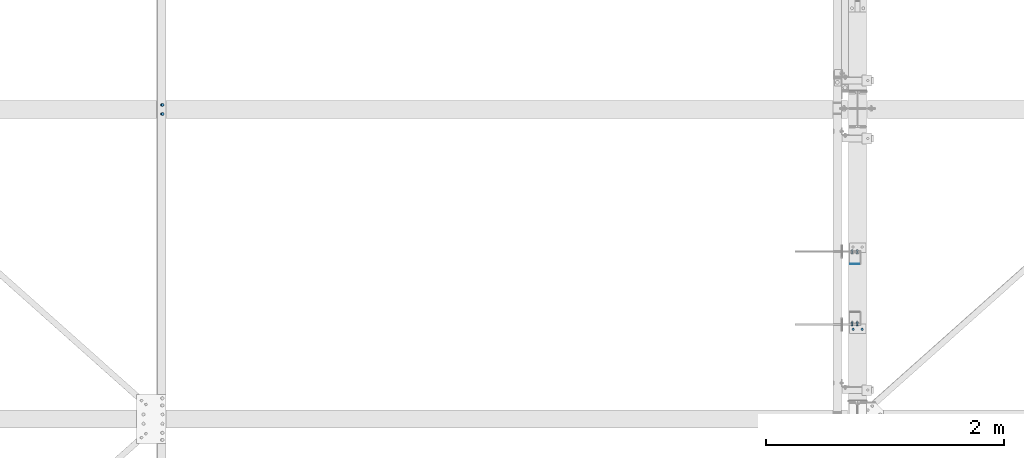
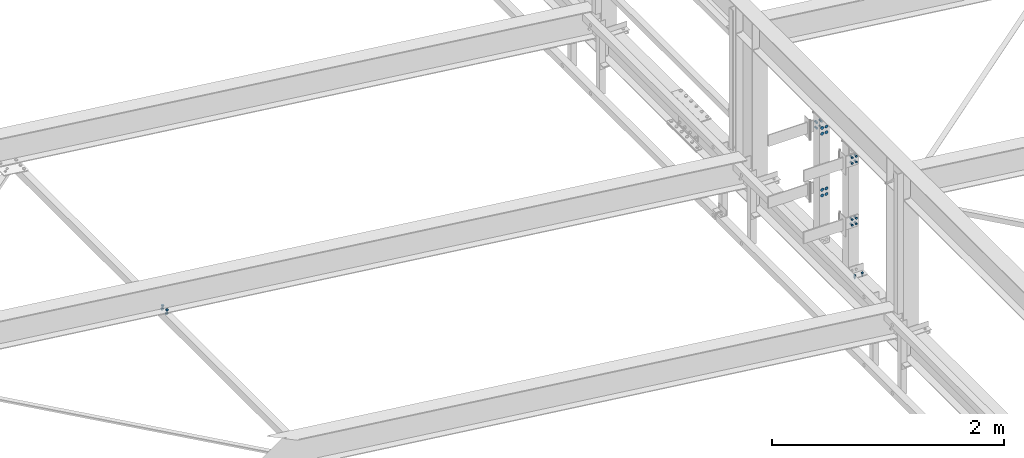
# One storey, part 146 of 3134: 7 mechanical fasteners, 4 elements without a shape of their own.
"""IFC2X3 building model written with IfcOpenShell, lengths in millimetres."""

from ifc_helpers import new_model, si_unit, frame, origin_with_axes, place, context, subcontext, project, spatial, faceted_brep, source, transform, mapped, material, type_object, element, aggregate, save


model = new_model("IFC2X3")

# Units and contexts
model_context = context("Model", 3, precision=1e-05, world=origin_with_axes())
body_context = subcontext(model_context, "Body", "Model", "MODEL_VIEW")
ifc_project = project(units=[si_unit("LENGTHUNIT", "METRE", prefix="MILLI"), si_unit("AREAUNIT", "SQUARE_METRE"), si_unit("VOLUMEUNIT", "CUBIC_METRE"), si_unit("MASSUNIT", "GRAM", prefix="KILO"), si_unit("TIMEUNIT", "SECOND"), si_unit("PLANEANGLEUNIT", "RADIAN"), si_unit("SOLIDANGLEUNIT", "STERADIAN"), si_unit("THERMODYNAMICTEMPERATUREUNIT", "DEGREE_CELSIUS"), si_unit("LUMINOUSINTENSITYUNIT", "LUMEN")], contexts=[model_context])

# Site, building, storey
site_placement = place(None, origin_with_axes())
site = spatial("IfcSite", under=ifc_project, at=site_placement, CompositionType="ELEMENT")
building_placement = place(site_placement, origin_with_axes())
building = spatial("IfcBuilding", under=site, at=building_placement, Name="Undefined", CompositionType="ELEMENT")
storey_placement = place(building_placement, origin_with_axes())
storey = spatial("IfcBuildingStorey", under=building, at=storey_placement, Name="Undefined", CompositionType="ELEMENT", Elevation=0.0)

# Assembly, mechanical fasteners
assembly_1_placement = place(storey_placement, origin_with_axes())
assembly_1 = element("IfcElementAssembly", 1, at=assembly_1_placement, inside=storey, AssemblyPlace="NOTDEFINED", PredefinedType="RIGID_FRAME")
ifc_material = material(Name="8.8")
mechanical_fastener_type = type_object("IfcMechanicalFastenerType", Name="Bolt assembly")
shared_shape_1 = source(origin_with_axes(), body_context, "Body", "Brep", [
    faceted_brep([(16.5, 0.0, 0.0), (14.289419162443, 0.0, 8.25000000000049), (8.24999999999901, 0.0, 14.2894191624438), (-1.70995436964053e-12, 0.0, 16.5), (-8.25000000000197, 0.0, 14.2894191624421), (-14.2894191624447, 0.0, 8.24999999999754), (-16.5, 0.0, -3.41990873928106e-12), (-14.2894191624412, 0.0, -8.25000000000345), (-8.24999999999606, 0.0, -14.2894191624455), (5.11154442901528e-12, 0.0, -16.5), (8.25000000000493, 0.0, -14.2894191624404), (14.2894191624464, 0.0, -8.24999999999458), (14.2894191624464, 4.1, -8.24999999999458), (8.25000000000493, 4.1, -14.2894191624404), (5.11154442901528e-12, 4.1, -16.5), (-8.24999999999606, 4.1, -14.2894191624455), (-14.2894191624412, 4.1, -8.25000000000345), (-16.5, 4.1, -3.41990873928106e-12), (-14.2894191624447, 4.1, 8.24999999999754), (-8.25000000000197, 4.1, 14.2894191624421), (-1.70995436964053e-12, 4.1, 16.5), (8.24999999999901, 4.1, 14.2894191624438), (14.289419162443, 4.1, 8.25000000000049), (16.5, 4.1, 0.0)], [[[0, 1, 2, 3, 4, 5, 6, 7, 8, 9, 10, 11]], [[12, 13, 14, 15, 16, 17, 18, 19, 20, 21, 22, 23]], [[0, 23, 22, 1]], [[1, 22, 21, 2]], [[2, 21, 20, 3]], [[3, 20, 19, 4]], [[4, 19, 18, 5]], [[5, 18, 17, 6]], [[6, 17, 16, 7]], [[7, 16, 15, 8]], [[8, 15, 14, 9]], [[9, 14, 13, 10]], [[10, 13, 12, 11]], [[11, 12, 23, 0]]]),
])
mechanical_fastener_1_placement = place(assembly_1_placement, frame((44175.0, 25950.0, 5470.0), z_axis=(1.0, 0.0, 0.0), x_axis=(0.0, 0.0, -1.0)))
mechanical_fastener_1 = element("IfcMechanicalFastener", 2, at=mechanical_fastener_1_placement, type_object=mechanical_fastener_type, material=ifc_material, Name="Bolt assembly", NominalDiameter=30.0, NominalLength=4.0, context=body_context, shape_type="MappedRepresentation", body=[
    mapped(shared_shape_1, transform((0.0, 0.0, -21.0))),
    mapped(shared_shape_1, transform((60.0, 0.0, -21.0))),
    mapped(shared_shape_1, transform((0.0, 0.0, 21.0))),
    mapped(shared_shape_1, transform((60.0, 0.0, 21.0))),
])
mechanical_fastener_2_placement = place(assembly_1_placement, frame((44175.0, 25950.0, 4820.0), z_axis=(1.0, 0.0, 0.0), x_axis=(0.0, 0.0, -1.0)))
mechanical_fastener_2 = element("IfcMechanicalFastener", 3, at=mechanical_fastener_2_placement, type_object=mechanical_fastener_type, material=ifc_material, Name="Bolt assembly", NominalDiameter=30.0, NominalLength=4.0, context=body_context, shape_type="MappedRepresentation", body=[
    mapped(shared_shape_1, transform((0.0, 0.0, -21.0))),
    mapped(shared_shape_1, transform((60.0, 0.0, -21.0))),
    mapped(shared_shape_1, transform((0.0, 0.0, 21.0))),
    mapped(shared_shape_1, transform((60.0, 0.0, 21.0))),
])

assembly_2_placement = place(storey_placement, origin_with_axes())
assembly_2 = element("IfcElementAssembly", 4, at=assembly_2_placement, inside=storey, AssemblyPlace="NOTDEFINED", PredefinedType="RIGID_FRAME")
shared_shape_2 = source(origin_with_axes(), body_context, "Body", "Brep", [
    faceted_brep([(10.9696551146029, -20.0, 0.0), (5.48482755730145, -20.0, 9.5), (-5.48482755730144, -20.0, 9.5), (-10.9696551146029, -20.0, 1.34339530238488e-15), (-5.48482755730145, -20.0, -9.5), (5.48482755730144, -20.0, -9.50000000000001), (5.48482755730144, -12.0, -9.50000000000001), (-5.48482755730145, -12.0, -9.5), (-10.9696551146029, -12.0, 1.34339530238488e-15), (-5.48482755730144, -12.0, 9.5), (5.48482755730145, -12.0, 9.5), (10.9696551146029, -12.0, 0.0), (6.0, -12.0, 0.0), (5.19615242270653, -12.0, 3.00000000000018), (2.99999999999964, -12.0, 5.19615242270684), (-6.21801588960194e-13, -12.0, 6.0), (-3.00000000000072, -12.0, 5.19615242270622), (-5.19615242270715, -12.0, 2.9999999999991), (-6.0, -12.0, -1.24360317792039e-12), (-5.19615242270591, -12.0, -3.00000000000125), (-2.99999999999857, -12.0, -5.19615242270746), (1.85874342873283e-12, -12.0, -6.0), (3.00000000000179, -12.0, -5.1961524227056), (5.19615242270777, -12.0, -2.99999999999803), (5.19615242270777, 18.0, -2.99999999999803), (3.00000000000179, 18.0, -5.1961524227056), (1.85874342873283e-12, 18.0, -6.0), (-2.99999999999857, 18.0, -5.19615242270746), (-5.19615242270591, 18.0, -3.00000000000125), (-6.0, 18.0, -1.24360317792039e-12), (-5.19615242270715, 18.0, 2.9999999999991), (-3.00000000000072, 18.0, 5.19615242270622), (-6.21801588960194e-13, 18.0, 6.0), (2.99999999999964, 18.0, 5.19615242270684), (5.19615242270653, 18.0, 3.00000000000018), (6.0, 18.0, 0.0), (10.9696551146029, 4.00000000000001, 0.0), (5.48482755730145, 4.00000000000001, 9.5), (-5.48482755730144, 4.00000000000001, 9.5), (-10.9696551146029, 4.00000000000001, 1.34339530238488e-15), (-5.48482755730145, 4.00000000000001, -9.5), (5.48482755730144, 4.00000000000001, -9.50000000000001), (5.48482755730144, 14.0, -9.50000000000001), (-5.48482755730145, 14.0, -9.5), (-10.9696551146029, 14.0, 1.34339530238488e-15), (-5.48482755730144, 14.0, 9.5), (5.48482755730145, 14.0, 9.5), (10.9696551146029, 14.0, 0.0)], [[[0, 1, 2, 3, 4, 5]], [[6, 7, 8, 9, 10, 11]], [[0, 11, 10, 1]], [[1, 10, 9, 2]], [[2, 9, 8, 3]], [[3, 8, 7, 4]], [[4, 7, 6, 5]], [[5, 6, 11, 0]], [[12, 13, 14, 15, 16, 17, 18, 19, 20, 21, 22, 23]], [[24, 25, 26, 27, 28, 29, 30, 31, 32, 33, 34, 35]], [[12, 35, 34, 13]], [[13, 34, 33, 14]], [[14, 33, 32, 15]], [[15, 32, 31, 16]], [[16, 31, 30, 17]], [[17, 30, 29, 18]], [[18, 29, 28, 19]], [[19, 28, 27, 20]], [[20, 27, 26, 21]], [[21, 26, 25, 22]], [[22, 25, 24, 23]], [[23, 24, 35, 12]], [[36, 37, 38, 39, 40, 41]], [[42, 43, 44, 45, 46, 47]], [[36, 47, 46, 37]], [[37, 46, 45, 38]], [[38, 45, 44, 39]], [[39, 44, 43, 40]], [[40, 43, 42, 41]], [[41, 42, 47, 36]]]),
    faceted_brep([(7.0, -11.9, 0.0), (6.06217782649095, -11.9, 3.50000000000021), (3.49999999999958, -11.9, 6.06217782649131), (-7.25435187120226e-13, -11.9, 7.0), (-3.50000000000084, -11.9, 6.06217782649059), (-6.06217782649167, -11.9, 3.49999999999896), (-7.0, -11.9, -1.45087037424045e-12), (-6.06217782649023, -11.9, -3.50000000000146), (-3.49999999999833, -11.9, -6.06217782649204), (2.1685340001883e-12, -11.9, -7.0), (3.50000000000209, -11.9, -6.06217782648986), (6.0621778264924, -11.9, -3.4999999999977), (6.0621778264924, 0.0999999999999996, -3.4999999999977), (3.50000000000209, 0.0999999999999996, -6.06217782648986), (2.1685340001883e-12, 0.0999999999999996, -7.0), (-3.49999999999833, 0.0999999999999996, -6.06217782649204), (-6.06217782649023, 0.0999999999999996, -3.50000000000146), (-7.0, 0.0999999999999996, -1.45087037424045e-12), (-6.06217782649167, 0.0999999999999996, 3.49999999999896), (-3.50000000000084, 0.0999999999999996, 6.06217782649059), (-7.25435187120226e-13, 0.0999999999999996, 7.0), (3.49999999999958, 0.0999999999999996, 6.06217782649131), (6.06217782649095, 0.0999999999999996, 3.50000000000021), (7.0, 0.0999999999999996, 0.0), (7.0, -0.1, 0.0), (6.06217782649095, -0.1, 3.50000000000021), (3.49999999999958, -0.1, 6.06217782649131), (-7.25435187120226e-13, -0.1, 7.0), (-3.50000000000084, -0.1, 6.06217782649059), (-6.06217782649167, -0.1, 3.49999999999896), (-7.0, -0.1, -1.45087037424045e-12), (-6.06217782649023, -0.1, -3.50000000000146), (-3.49999999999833, -0.1, -6.06217782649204), (2.1685340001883e-12, -0.1, -7.0), (3.50000000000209, -0.1, -6.06217782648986), (6.0621778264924, -0.1, -3.4999999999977), (6.0621778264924, 4.00000000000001, -3.4999999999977), (3.50000000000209, 4.00000000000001, -6.06217782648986), (2.1685340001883e-12, 4.00000000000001, -7.0), (-3.49999999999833, 4.00000000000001, -6.06217782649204), (-6.06217782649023, 4.00000000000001, -3.50000000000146), (-7.0, 4.00000000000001, -1.45087037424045e-12), (-6.06217782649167, 4.00000000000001, 3.49999999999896), (-3.50000000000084, 4.00000000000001, 6.06217782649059), (-7.25435187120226e-13, 4.00000000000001, 7.0), (3.49999999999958, 4.00000000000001, 6.06217782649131), (6.06217782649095, 4.00000000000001, 3.50000000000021), (7.0, 4.00000000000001, 0.0)], [[[0, 1, 2, 3, 4, 5, 6, 7, 8, 9, 10, 11]], [[12, 13, 14, 15, 16, 17, 18, 19, 20, 21, 22, 23]], [[0, 23, 22, 1]], [[1, 22, 21, 2]], [[2, 21, 20, 3]], [[3, 20, 19, 4]], [[4, 19, 18, 5]], [[5, 18, 17, 6]], [[6, 17, 16, 7]], [[7, 16, 15, 8]], [[8, 15, 14, 9]], [[9, 14, 13, 10]], [[10, 13, 12, 11]], [[11, 12, 23, 0]], [[24, 25, 26, 27, 28, 29, 30, 31, 32, 33, 34, 35]], [[36, 37, 38, 39, 40, 41, 42, 43, 44, 45, 46, 47]], [[24, 47, 46, 25]], [[25, 46, 45, 26]], [[26, 45, 44, 27]], [[27, 44, 43, 28]], [[28, 43, 42, 29]], [[29, 42, 41, 30]], [[30, 41, 40, 31]], [[31, 40, 39, 32]], [[32, 39, 38, 33]], [[33, 38, 37, 34]], [[34, 37, 36, 35]], [[35, 36, 47, 24]]]),
])
mechanical_fastener_3_placement = place(assembly_2_placement, frame((44175.0, 25450.0, 5470.0), z_axis=(1.0, 0.0, 0.0), x_axis=(0.0, 0.0, -1.0)))
mechanical_fastener_3 = element("IfcMechanicalFastener", 5, at=mechanical_fastener_3_placement, type_object=mechanical_fastener_type, material=ifc_material, Name="Bolt assembly", NominalDiameter=12.0, NominalLength=30.0, context=body_context, shape_type="MappedRepresentation", body=[
    mapped(shared_shape_2, transform((0.0, 0.0, -21.0))),
    mapped(shared_shape_2, transform((60.0, 0.0, -21.0))),
    mapped(shared_shape_2, transform((0.0, 0.0, 21.0))),
    mapped(shared_shape_2, transform((60.0, 0.0, 21.0))),
])
mechanical_fastener_4_placement = place(assembly_2_placement, frame((44175.0, 25450.0, 4820.0), z_axis=(1.0, 0.0, 0.0), x_axis=(0.0, 0.0, -1.0)))
mechanical_fastener_4 = element("IfcMechanicalFastener", 6, at=mechanical_fastener_4_placement, type_object=mechanical_fastener_type, material=ifc_material, Name="Bolt assembly", NominalDiameter=12.0, NominalLength=30.0, context=body_context, shape_type="MappedRepresentation", body=[
    mapped(shared_shape_2, transform((0.0, 0.0, -21.0))),
    mapped(shared_shape_2, transform((60.0, 0.0, -21.0))),
    mapped(shared_shape_2, transform((0.0, 0.0, 21.0))),
    mapped(shared_shape_2, transform((60.0, 0.0, 21.0))),
])
aggregate(assembly_2, [mechanical_fastener_3, mechanical_fastener_4])

# Mechanical fastener
shared_shape_3 = source(origin_with_axes(), body_context, "Body", "Brep", [
    faceted_brep([(10.9696551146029, -12.0, 0.0), (5.48482755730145, -12.0, 9.5), (-5.48482755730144, -12.0, 9.5), (-10.9696551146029, -12.0, 1.34339530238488e-15), (-5.48482755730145, -12.0, -9.5), (5.48482755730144, -12.0, -9.50000000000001), (5.48482755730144, -4.0, -9.50000000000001), (-5.48482755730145, -4.0, -9.5), (-10.9696551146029, -4.0, 1.34339530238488e-15), (-5.48482755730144, -4.0, 9.5), (5.48482755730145, -4.0, 9.5), (10.9696551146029, -4.0, 0.0), (6.0, -4.0, 0.0), (5.19615242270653, -4.0, 3.00000000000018), (2.99999999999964, -4.0, 5.19615242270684), (-6.21801588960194e-13, -4.0, 6.0), (-3.00000000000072, -4.0, 5.19615242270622), (-5.19615242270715, -4.0, 2.9999999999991), (-6.0, -4.0, -1.24360317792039e-12), (-5.19615242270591, -4.0, -3.00000000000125), (-2.99999999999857, -4.0, -5.19615242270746), (1.85874342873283e-12, -4.0, -6.0), (3.00000000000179, -4.0, -5.1961524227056), (5.19615242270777, -4.0, -2.99999999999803), (5.19615242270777, 26.0, -2.99999999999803), (3.00000000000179, 26.0, -5.1961524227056), (1.85874342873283e-12, 26.0, -6.0), (-2.99999999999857, 26.0, -5.19615242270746), (-5.19615242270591, 26.0, -3.00000000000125), (-6.0, 26.0, -1.24360317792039e-12), (-5.19615242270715, 26.0, 2.9999999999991), (-3.00000000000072, 26.0, 5.19615242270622), (-6.21801588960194e-13, 26.0, 6.0), (2.99999999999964, 26.0, 5.19615242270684), (5.19615242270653, 26.0, 3.00000000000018), (6.0, 26.0, 0.0), (10.9696551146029, 12.0, 0.0), (5.48482755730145, 12.0, 9.5), (-5.48482755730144, 12.0, 9.5), (-10.9696551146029, 12.0, 1.34339530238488e-15), (-5.48482755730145, 12.0, -9.5), (5.48482755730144, 12.0, -9.50000000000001), (5.48482755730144, 22.0, -9.50000000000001), (-5.48482755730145, 22.0, -9.5), (-10.9696551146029, 22.0, 1.34339530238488e-15), (-5.48482755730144, 22.0, 9.5), (5.48482755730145, 22.0, 9.5), (10.9696551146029, 22.0, 0.0)], [[[0, 1, 2, 3, 4, 5]], [[6, 7, 8, 9, 10, 11]], [[0, 11, 10, 1]], [[1, 10, 9, 2]], [[2, 9, 8, 3]], [[3, 8, 7, 4]], [[4, 7, 6, 5]], [[5, 6, 11, 0]], [[12, 13, 14, 15, 16, 17, 18, 19, 20, 21, 22, 23]], [[24, 25, 26, 27, 28, 29, 30, 31, 32, 33, 34, 35]], [[12, 35, 34, 13]], [[13, 34, 33, 14]], [[14, 33, 32, 15]], [[15, 32, 31, 16]], [[16, 31, 30, 17]], [[17, 30, 29, 18]], [[18, 29, 28, 19]], [[19, 28, 27, 20]], [[20, 27, 26, 21]], [[21, 26, 25, 22]], [[22, 25, 24, 23]], [[23, 24, 35, 12]], [[36, 37, 38, 39, 40, 41]], [[42, 43, 44, 45, 46, 47]], [[36, 47, 46, 37]], [[37, 46, 45, 38]], [[38, 45, 44, 39]], [[39, 44, 43, 40]], [[40, 43, 42, 41]], [[41, 42, 47, 36]]]),
    faceted_brep([(7.0, -0.1, 0.0), (6.06217782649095, -0.1, 3.50000000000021), (3.49999999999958, -0.1, 6.06217782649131), (-7.25435187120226e-13, -0.1, 7.0), (-3.50000000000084, -0.1, 6.06217782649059), (-6.06217782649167, -0.1, 3.49999999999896), (-7.0, -0.1, -1.45087037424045e-12), (-6.06217782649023, -0.1, -3.50000000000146), (-3.49999999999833, -0.1, -6.06217782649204), (2.1685340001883e-12, -0.1, -7.0), (3.50000000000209, -0.1, -6.06217782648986), (6.0621778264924, -0.1, -3.4999999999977), (6.0621778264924, 12.0, -3.4999999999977), (3.50000000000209, 12.0, -6.06217782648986), (2.1685340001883e-12, 12.0, -7.0), (-3.49999999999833, 12.0, -6.06217782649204), (-6.06217782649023, 12.0, -3.50000000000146), (-7.0, 12.0, -1.45087037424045e-12), (-6.06217782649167, 12.0, 3.49999999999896), (-3.50000000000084, 12.0, 6.06217782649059), (-7.25435187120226e-13, 12.0, 7.0), (3.49999999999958, 12.0, 6.06217782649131), (6.06217782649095, 12.0, 3.50000000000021), (7.0, 12.0, 0.0), (7.0, -3.9, 0.0), (6.06217782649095, -3.9, 3.50000000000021), (3.49999999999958, -3.9, 6.06217782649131), (-7.25435187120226e-13, -3.9, 7.0), (-3.50000000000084, -3.9, 6.06217782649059), (-6.06217782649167, -3.9, 3.49999999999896), (-7.0, -3.9, -1.45087037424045e-12), (-6.06217782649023, -3.9, -3.50000000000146), (-3.49999999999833, -3.9, -6.06217782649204), (2.1685340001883e-12, -3.9, -7.0), (3.50000000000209, -3.9, -6.06217782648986), (6.0621778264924, -3.9, -3.4999999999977), (6.0621778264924, 0.0999999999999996, -3.4999999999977), (3.50000000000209, 0.0999999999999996, -6.06217782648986), (2.1685340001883e-12, 0.0999999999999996, -7.0), (-3.49999999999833, 0.0999999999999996, -6.06217782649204), (-6.06217782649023, 0.0999999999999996, -3.50000000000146), (-7.0, 0.0999999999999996, -1.45087037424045e-12), (-6.06217782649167, 0.0999999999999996, 3.49999999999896), (-3.50000000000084, 0.0999999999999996, 6.06217782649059), (-7.25435187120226e-13, 0.0999999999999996, 7.0), (3.49999999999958, 0.0999999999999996, 6.06217782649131), (6.06217782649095, 0.0999999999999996, 3.50000000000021), (7.0, 0.0999999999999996, 0.0)], [[[0, 1, 2, 3, 4, 5, 6, 7, 8, 9, 10, 11]], [[12, 13, 14, 15, 16, 17, 18, 19, 20, 21, 22, 23]], [[0, 23, 22, 1]], [[1, 22, 21, 2]], [[2, 21, 20, 3]], [[3, 20, 19, 4]], [[4, 19, 18, 5]], [[5, 18, 17, 6]], [[6, 17, 16, 7]], [[7, 16, 15, 8]], [[8, 15, 14, 9]], [[9, 14, 13, 10]], [[10, 13, 12, 11]], [[11, 12, 23, 0]], [[24, 25, 26, 27, 28, 29, 30, 31, 32, 33, 34, 35]], [[36, 37, 38, 39, 40, 41, 42, 43, 44, 45, 46, 47]], [[24, 47, 46, 25]], [[25, 46, 45, 26]], [[26, 45, 44, 27]], [[27, 44, 43, 28]], [[28, 43, 42, 29]], [[29, 42, 41, 30]], [[30, 41, 40, 31]], [[31, 40, 39, 32]], [[32, 39, 38, 33]], [[33, 38, 37, 34]], [[34, 37, 36, 35]], [[35, 36, 47, 24]]]),
])
mechanical_fastener_5_placement = place(assembly_1_placement, frame((44175.0, 26050.0, 5470.0), z_axis=(1.0, 0.0, 0.0), x_axis=(0.0, 0.0, -1.0)))
mechanical_fastener_5 = element("IfcMechanicalFastener", 7, at=mechanical_fastener_5_placement, type_object=mechanical_fastener_type, material=ifc_material, Name="Bolt assembly", NominalDiameter=12.0, NominalLength=30.0, context=body_context, shape_type="MappedRepresentation", body=[
    mapped(shared_shape_3, transform((0.0, 0.0, -21.0))),
    mapped(shared_shape_3, transform((60.0, 0.0, -21.0))),
    mapped(shared_shape_3, transform((0.0, 0.0, 21.0))),
    mapped(shared_shape_3, transform((60.0, 0.0, 21.0))),
])

aggregate(assembly_1, [mechanical_fastener_1, mechanical_fastener_2, mechanical_fastener_5])

# Assembly, mechanical fastener
assembly_3_placement = place(storey_placement, origin_with_axes())
assembly_3 = element("IfcElementAssembly", 8, at=assembly_3_placement, inside=storey, AssemblyPlace="NOTDEFINED", PredefinedType="RIGID_FRAME")
shared_shape_4 = source(origin_with_axes(), body_context, "Body", "Brep", [
    faceted_brep([(10.9696551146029, -16.0, 0.0), (5.48482755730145, -16.0, 9.5), (-5.48482755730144, -16.0, 9.5), (-10.9696551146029, -16.0, 1.34339530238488e-15), (-5.48482755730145, -16.0, -9.5), (5.48482755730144, -16.0, -9.50000000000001), (5.48482755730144, -8.0, -9.50000000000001), (-5.48482755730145, -8.0, -9.5), (-10.9696551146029, -8.0, 1.34339530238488e-15), (-5.48482755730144, -8.0, 9.5), (5.48482755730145, -8.0, 9.5), (10.9696551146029, -8.0, 0.0), (6.0, -8.0, 0.0), (5.19615242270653, -8.0, 3.00000000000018), (2.99999999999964, -8.0, 5.19615242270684), (-6.21801588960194e-13, -8.0, 6.0), (-3.00000000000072, -8.0, 5.19615242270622), (-5.19615242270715, -8.0, 2.9999999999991), (-6.0, -8.0, -1.24360317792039e-12), (-5.19615242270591, -8.0, -3.00000000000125), (-2.99999999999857, -8.0, -5.19615242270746), (1.85874342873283e-12, -8.0, -6.0), (3.00000000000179, -8.0, -5.1961524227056), (5.19615242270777, -8.0, -2.99999999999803), (5.19615242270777, 27.0, -2.99999999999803), (3.00000000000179, 27.0, -5.1961524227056), (1.85874342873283e-12, 27.0, -6.0), (-2.99999999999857, 27.0, -5.19615242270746), (-5.19615242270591, 27.0, -3.00000000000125), (-6.0, 27.0, -1.24360317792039e-12), (-5.19615242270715, 27.0, 2.9999999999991), (-3.00000000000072, 27.0, 5.19615242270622), (-6.21801588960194e-13, 27.0, 6.0), (2.99999999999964, 27.0, 5.19615242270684), (5.19615242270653, 27.0, 3.00000000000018), (6.0, 27.0, 0.0), (10.9696551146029, 0.0, 0.0), (5.48482755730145, 0.0, 9.5), (-5.48482755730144, 0.0, 9.5), (-10.9696551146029, 0.0, 1.34339530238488e-15), (-5.48482755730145, 0.0, -9.5), (5.48482755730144, 0.0, -9.50000000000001), (5.48482755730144, 10.0, -9.50000000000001), (-5.48482755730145, 10.0, -9.5), (-10.9696551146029, 10.0, 1.34339530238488e-15), (-5.48482755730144, 10.0, 9.5), (5.48482755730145, 10.0, 9.5), (10.9696551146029, 10.0, 0.0)], [[[0, 1, 2, 3, 4, 5]], [[6, 7, 8, 9, 10, 11]], [[0, 11, 10, 1]], [[1, 10, 9, 2]], [[2, 9, 8, 3]], [[3, 8, 7, 4]], [[4, 7, 6, 5]], [[5, 6, 11, 0]], [[12, 13, 14, 15, 16, 17, 18, 19, 20, 21, 22, 23]], [[24, 25, 26, 27, 28, 29, 30, 31, 32, 33, 34, 35]], [[12, 35, 34, 13]], [[13, 34, 33, 14]], [[14, 33, 32, 15]], [[15, 32, 31, 16]], [[16, 31, 30, 17]], [[17, 30, 29, 18]], [[18, 29, 28, 19]], [[19, 28, 27, 20]], [[20, 27, 26, 21]], [[21, 26, 25, 22]], [[22, 25, 24, 23]], [[23, 24, 35, 12]], [[36, 37, 38, 39, 40, 41]], [[42, 43, 44, 45, 46, 47]], [[36, 47, 46, 37]], [[37, 46, 45, 38]], [[38, 45, 44, 39]], [[39, 44, 43, 40]], [[40, 43, 42, 41]], [[41, 42, 47, 36]]]),
    faceted_brep([(7.0, -8.0, 0.0), (6.06217782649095, -8.0, 3.50000000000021), (3.49999999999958, -8.0, 6.06217782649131), (-7.25435187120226e-13, -8.0, 7.0), (-3.50000000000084, -8.0, 6.06217782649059), (-6.06217782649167, -8.0, 3.49999999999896), (-7.0, -8.0, -1.45087037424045e-12), (-6.06217782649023, -8.0, -3.50000000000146), (-3.49999999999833, -8.0, -6.06217782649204), (2.1685340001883e-12, -8.0, -7.0), (3.50000000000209, -8.0, -6.06217782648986), (6.0621778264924, -8.0, -3.4999999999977), (6.0621778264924, 0.0999999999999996, -3.4999999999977), (3.50000000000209, 0.0999999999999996, -6.06217782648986), (2.1685340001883e-12, 0.0999999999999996, -7.0), (-3.49999999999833, 0.0999999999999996, -6.06217782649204), (-6.06217782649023, 0.0999999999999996, -3.50000000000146), (-7.0, 0.0999999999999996, -1.45087037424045e-12), (-6.06217782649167, 0.0999999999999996, 3.49999999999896), (-3.50000000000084, 0.0999999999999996, 6.06217782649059), (-7.25435187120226e-13, 0.0999999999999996, 7.0), (3.49999999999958, 0.0999999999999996, 6.06217782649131), (6.06217782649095, 0.0999999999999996, 3.50000000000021), (7.0, 0.0999999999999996, 0.0)], [[[0, 1, 2, 3, 4, 5, 6, 7, 8, 9, 10, 11]], [[12, 13, 14, 15, 16, 17, 18, 19, 20, 21, 22, 23]], [[0, 23, 22, 1]], [[1, 22, 21, 2]], [[2, 21, 20, 3]], [[3, 20, 19, 4]], [[4, 19, 18, 5]], [[5, 18, 17, 6]], [[6, 17, 16, 7]], [[7, 16, 15, 8]], [[8, 15, 14, 9]], [[9, 14, 13, 10]], [[10, 13, 12, 11]], [[11, 12, 23, 0]]]),
])
mechanical_fastener_6_placement = place(assembly_3_placement, frame((44162.0, 25405.0, 4237.0), z_axis=(0.0, 1.0, 0.0), x_axis=(1.0, 0.0, 0.0)))
mechanical_fastener_6 = element("IfcMechanicalFastener", 9, at=mechanical_fastener_6_placement, type_object=mechanical_fastener_type, material=ifc_material, Name="Bolt assembly", NominalDiameter=12.0, NominalLength=35.0, context=body_context, shape_type="MappedRepresentation", body=[
    mapped(shared_shape_4, transform((0.0, 0.0, 0.0))),
    mapped(shared_shape_4, transform((76.0, 0.0, 0.0))),
])
aggregate(assembly_3, [mechanical_fastener_6])

assembly_4_placement = place(storey_placement, origin_with_axes())
assembly_4 = element("IfcElementAssembly", 10, at=assembly_4_placement, inside=storey, AssemblyPlace="NOTDEFINED", PredefinedType="RIGID_FRAME")
shared_shape_5 = source(origin_with_axes(), body_context, "Body", "Brep", [
    faceted_brep([(13.856406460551, -19.199990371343, 0.0), (6.92820323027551, -19.199990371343, 12.0), (-6.92820323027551, -19.199990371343, 12.0), (-13.856406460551, -19.199990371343, 1.69692038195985e-15), (-6.92820323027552, -19.199990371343, -12.0), (6.9282032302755, -19.199990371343, -12.0), (6.9282032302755, -9.19999037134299, -12.0), (-6.92820323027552, -9.19999037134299, -12.0), (-13.856406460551, -9.19999037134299, 1.69692038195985e-15), (-6.92820323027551, -9.19999037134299, 12.0), (6.92820323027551, -9.19999037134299, 12.0), (13.856406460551, -9.19999037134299, 0.0), (8.0, -9.19999037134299, 0.0), (6.92820323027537, -9.19999037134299, 4.00000000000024), (3.99999999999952, -9.19999037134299, 6.92820323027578), (-8.29068785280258e-13, -9.19999037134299, 8.0), (-4.00000000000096, -9.19999037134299, 6.92820323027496), (-6.9282032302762, -9.19999037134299, 3.99999999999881), (-8.0, -9.19999037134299, -1.65813757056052e-12), (-6.92820323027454, -9.19999037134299, -4.00000000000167), (-3.99999999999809, -9.19999037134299, -6.92820323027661), (2.47832457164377e-12, -9.19999037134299, -8.0), (4.00000000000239, -9.19999037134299, -6.92820323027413), (6.92820323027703, -9.19999037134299, -3.99999999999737), (6.92820323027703, 35.8000002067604, -3.99999999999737), (4.00000000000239, 35.8000002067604, -6.92820323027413), (2.47832457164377e-12, 35.8000002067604, -8.0), (-3.99999999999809, 35.8000002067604, -6.92820323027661), (-6.92820323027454, 35.8000002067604, -4.00000000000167), (-8.0, 35.8000002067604, -1.65813757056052e-12), (-6.9282032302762, 35.8000002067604, 3.99999999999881), (-4.00000000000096, 35.8000002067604, 6.92820323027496), (-8.29068785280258e-13, 35.8000002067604, 8.0), (3.99999999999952, 35.8000002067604, 6.92820323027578), (6.92820323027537, 35.8000002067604, 4.00000000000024), (8.0, 35.8000002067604, 0.0), (13.856406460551, 14.9999995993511, 0.0), (6.92820323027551, 14.9999995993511, 12.0), (-6.92820323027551, 14.9999995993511, 12.0), (-13.856406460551, 14.9999995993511, 1.69692038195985e-15), (-6.92820323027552, 14.9999995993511, -12.0), (6.9282032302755, 14.9999995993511, -12.0), (6.9282032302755, 27.9999995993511, -12.0), (-6.92820323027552, 27.9999995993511, -12.0), (-13.856406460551, 27.9999995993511, 1.69692038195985e-15), (-6.92820323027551, 27.9999995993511, 12.0), (6.92820323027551, 27.9999995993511, 12.0), (13.856406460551, 27.9999995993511, 0.0)], [[[0, 1, 2, 3, 4, 5]], [[6, 7, 8, 9, 10, 11]], [[0, 11, 10, 1]], [[1, 10, 9, 2]], [[2, 9, 8, 3]], [[3, 8, 7, 4]], [[4, 7, 6, 5]], [[5, 6, 11, 0]], [[12, 13, 14, 15, 16, 17, 18, 19, 20, 21, 22, 23]], [[24, 25, 26, 27, 28, 29, 30, 31, 32, 33, 34, 35]], [[12, 35, 34, 13]], [[13, 34, 33, 14]], [[14, 33, 32, 15]], [[15, 32, 31, 16]], [[16, 31, 30, 17]], [[17, 30, 29, 18]], [[18, 29, 28, 19]], [[19, 28, 27, 20]], [[20, 27, 26, 21]], [[21, 26, 25, 22]], [[22, 25, 24, 23]], [[23, 24, 35, 12]], [[36, 37, 38, 39, 40, 41]], [[42, 43, 44, 45, 46, 47]], [[36, 47, 46, 37]], [[37, 46, 45, 38]], [[38, 45, 44, 39]], [[39, 44, 43, 40]], [[40, 43, 42, 41]], [[41, 42, 47, 36]]]),
    faceted_brep([(9.0, -9.09999037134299, 0.0), (7.79422863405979, -9.09999037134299, 4.50000000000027), (4.49999999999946, -9.09999037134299, 7.79422863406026), (-9.3270238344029e-13, -9.09999037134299, 9.0), (-4.50000000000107, -9.09999037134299, 7.79422863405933), (-7.79422863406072, -9.09999037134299, 4.49999999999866), (-9.0, -9.09999037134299, -1.86540476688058e-12), (-7.79422863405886, -9.09999037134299, -4.50000000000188), (-4.49999999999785, -9.09999037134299, -7.79422863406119), (2.78811514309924e-12, -9.09999037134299, -9.0), (4.50000000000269, -9.09999037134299, -7.7942286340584), (7.79422863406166, -9.09999037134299, -4.49999999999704), (7.79422863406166, 0.100000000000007, -4.49999999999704), (4.50000000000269, 0.100000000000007, -7.7942286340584), (2.78811514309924e-12, 0.100000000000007, -9.0), (-4.49999999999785, 0.100000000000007, -7.79422863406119), (-7.79422863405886, 0.100000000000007, -4.50000000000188), (-9.0, 0.100000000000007, -1.86540476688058e-12), (-7.79422863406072, 0.100000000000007, 4.49999999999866), (-4.50000000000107, 0.100000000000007, 7.79422863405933), (-9.3270238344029e-13, 0.100000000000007, 9.0), (4.49999999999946, 0.100000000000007, 7.79422863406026), (7.79422863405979, 0.100000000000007, 4.50000000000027), (9.0, 0.100000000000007, 0.0), (9.0, 7.9, 0.0), (7.79422863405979, 7.9, 4.50000000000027), (4.49999999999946, 7.9, 7.79422863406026), (-9.3270238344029e-13, 7.9, 9.0), (-4.50000000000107, 7.9, 7.79422863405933), (-7.79422863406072, 7.9, 4.49999999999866), (-9.0, 7.9, -1.86540476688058e-12), (-7.79422863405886, 7.9, -4.50000000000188), (-4.49999999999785, 7.9, -7.79422863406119), (2.78811514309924e-12, 7.9, -9.0), (4.50000000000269, 7.9, -7.7942286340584), (7.79422863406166, 7.9, -4.49999999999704), (7.79422863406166, 14.9999995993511, -4.49999999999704), (4.50000000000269, 14.9999995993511, -7.7942286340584), (2.78811514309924e-12, 14.9999995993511, -9.0), (-4.49999999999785, 14.9999995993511, -7.79422863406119), (-7.79422863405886, 14.9999995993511, -4.50000000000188), (-9.0, 14.9999995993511, -1.86540476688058e-12), (-7.79422863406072, 14.9999995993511, 4.49999999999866), (-4.50000000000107, 14.9999995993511, 7.79422863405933), (-9.3270238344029e-13, 14.9999995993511, 9.0), (4.49999999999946, 14.9999995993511, 7.79422863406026), (7.79422863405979, 14.9999995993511, 4.50000000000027), (9.0, 14.9999995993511, 0.0)], [[[0, 1, 2, 3, 4, 5, 6, 7, 8, 9, 10, 11]], [[12, 13, 14, 15, 16, 17, 18, 19, 20, 21, 22, 23]], [[0, 23, 22, 1]], [[1, 22, 21, 2]], [[2, 21, 20, 3]], [[3, 20, 19, 4]], [[4, 19, 18, 5]], [[5, 18, 17, 6]], [[6, 17, 16, 7]], [[7, 16, 15, 8]], [[8, 15, 14, 9]], [[9, 14, 13, 10]], [[10, 13, 12, 11]], [[11, 12, 23, 0]], [[24, 25, 26, 27, 28, 29, 30, 31, 32, 33, 34, 35]], [[36, 37, 38, 39, 40, 41, 42, 43, 44, 45, 46, 47]], [[24, 47, 46, 25]], [[25, 46, 45, 26]], [[26, 45, 44, 27]], [[27, 44, 43, 28]], [[28, 43, 42, 29]], [[29, 42, 41, 30]], [[30, 41, 40, 31]], [[31, 40, 39, 32]], [[32, 39, 38, 33]], [[33, 38, 37, 34]], [[34, 37, 36, 35]], [[35, 36, 47, 24]]]),
])
mechanical_fastener_7_placement = place(assembly_4_placement, frame((38362.9849612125, 27212.0, 4806.73358922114), z_axis=(-0.992623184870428, 0.0, 0.121240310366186), x_axis=(0.0, 1.0, 0.0)))
mechanical_fastener_7 = element("IfcMechanicalFastener", 11, at=mechanical_fastener_7_placement, type_object=mechanical_fastener_type, material=ifc_material, Name="Bolt assembly", NominalDiameter=16.0, NominalLength=45.0, context=body_context, shape_type="MappedRepresentation", body=[
    mapped(shared_shape_5, transform((0.0, 0.0, 0.0))),
    mapped(shared_shape_5, transform((76.0, 0.0, 0.0))),
])
aggregate(assembly_4, [mechanical_fastener_7])

save(model, "model.ifc")
